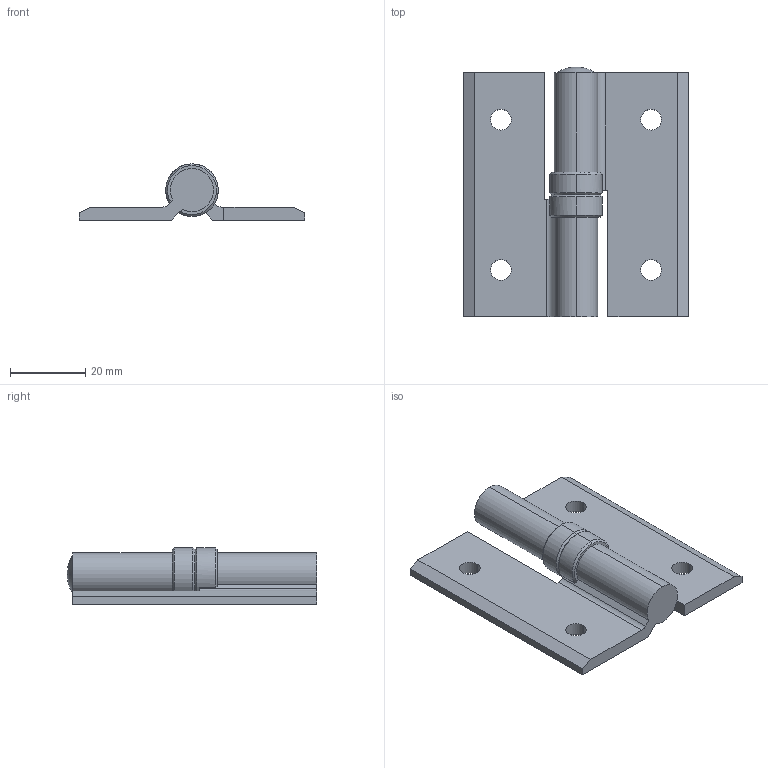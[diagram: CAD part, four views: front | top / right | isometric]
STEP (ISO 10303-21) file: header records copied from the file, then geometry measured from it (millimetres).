
FILE_DESCRIPTION(('STEP AP214'),'1');
FILE_NAME('14-7-3877.stp','2018-01-10T11:09:50',('TraceParts'),('TraceParts S.A.'),'Spatial InterOp 3D',' ',' ');
FILE_SCHEMA(('automotive_design'));
Length unit declared in the file: millimetre
Products named in the file (2): 14-7-3877_1; 14-7-3877_2
Bounding box: 60 x 66.5 x 15 mm (x, y, z)
Volume: 17630.5 mm3; surface area: 10723 mm2
Topology: 2 solids, 2 shells, 68 faces, 174 edges, 111 vertices
Faces by surface type: cylinder 26, plane 26, cone 12, bspline 2, sphere 2
Entity records: 2158 total; most frequent: CARTESIAN_POINT 425, DIRECTION 376, ORIENTED_EDGE 344, EDGE_CURVE 172, AXIS2_PLACEMENT_3D 142, VERTEX_POINT 111, LINE 92, VECTOR 92
